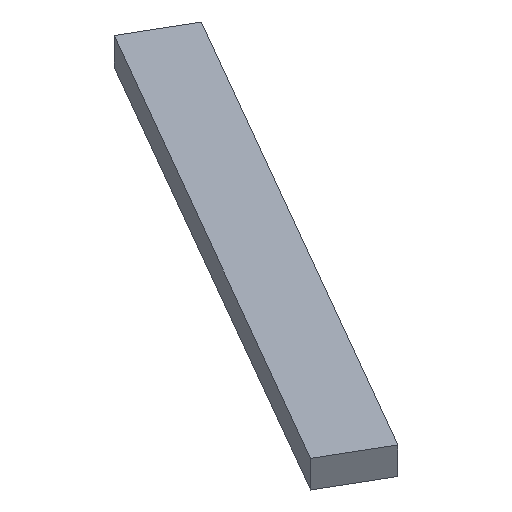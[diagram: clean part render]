
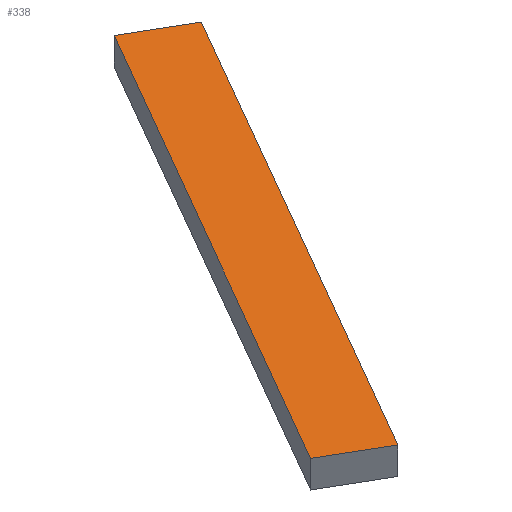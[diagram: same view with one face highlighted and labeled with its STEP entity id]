
A CAD part, isometric view. The second image highlights one B-rep face of the part: STEP entity #338.
In plain terms, the highlighted planar face has unit normal (0, 0, 1).
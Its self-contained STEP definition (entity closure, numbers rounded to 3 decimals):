
#24 = VERTEX_POINT('',#25);
#25 = CARTESIAN_POINT('',(57.431,92.474,15.));
#32 = PLANE('',#33);
#33 = AXIS2_PLACEMENT_3D('',#34,#35,#36);
#34 = CARTESIAN_POINT('',(57.431,92.474,12.));
#35 = DIRECTION('',(0.866,-0.5,0.));
#36 = DIRECTION('',(-0.5,-0.866,0.));
#44 = PLANE('',#45);
#45 = AXIS2_PLACEMENT_3D('',#46,#47,#48);
#46 = CARTESIAN_POINT('',(51.369,95.974,12.));
#47 = DIRECTION('',(0.5,0.866,-0.));
#48 = DIRECTION('',(0.866,-0.5,0.));
#56 = EDGE_CURVE('',#24,#57,#59,.T.);
#57 = VERTEX_POINT('',#58);
#58 = CARTESIAN_POINT('',(28.031,41.551,15.));
#59 = SURFACE_CURVE('',#60,(#64,#71),.PCURVE_S1.);
#60 = LINE('',#61,#62);
#61 = CARTESIAN_POINT('',(57.431,92.474,15.));
#62 = VECTOR('',#63,1.);
#63 = DIRECTION('',(-0.5,-0.866,0.));
#64 = PCURVE('',#32,#65);
#65 = DEFINITIONAL_REPRESENTATION('',(#66),#70);
#66 = LINE('',#67,#68);
#67 = CARTESIAN_POINT('',(0.,-3.));
#68 = VECTOR('',#69,1.);
#69 = DIRECTION('',(1.,0.));
#70 = ( GEOMETRIC_REPRESENTATION_CONTEXT(2) 
PARAMETRIC_REPRESENTATION_CONTEXT() REPRESENTATION_CONTEXT('2D SPACE',''
  ) );
#71 = PCURVE('',#72,#77);
#72 = PLANE('',#73);
#73 = AXIS2_PLACEMENT_3D('',#74,#75,#76);
#74 = CARTESIAN_POINT('',(39.7,68.762,15.));
#75 = DIRECTION('',(-0.,-0.,-1.));
#76 = DIRECTION('',(-1.,0.,0.));
#77 = DEFINITIONAL_REPRESENTATION('',(#78),#82);
#78 = LINE('',#79,#80);
#79 = CARTESIAN_POINT('',(-17.731,23.711));
#80 = VECTOR('',#81,1.);
#81 = DIRECTION('',(0.5,-0.866));
#82 = ( GEOMETRIC_REPRESENTATION_CONTEXT(2) 
PARAMETRIC_REPRESENTATION_CONTEXT() REPRESENTATION_CONTEXT('2D SPACE',''
  ) );
#100 = PLANE('',#101);
#101 = AXIS2_PLACEMENT_3D('',#102,#103,#104);
#102 = CARTESIAN_POINT('',(28.031,41.551,12.));
#103 = DIRECTION('',(-0.5,-0.866,0.));
#104 = DIRECTION('',(-0.866,0.5,0.));
#142 = EDGE_CURVE('',#57,#143,#145,.T.);
#143 = VERTEX_POINT('',#144);
#144 = CARTESIAN_POINT('',(21.969,45.051,15.));
#145 = SURFACE_CURVE('',#146,(#150,#157),.PCURVE_S1.);
#146 = LINE('',#147,#148);
#147 = CARTESIAN_POINT('',(28.031,41.551,15.));
#148 = VECTOR('',#149,1.);
#149 = DIRECTION('',(-0.866,0.5,0.));
#150 = PCURVE('',#100,#151);
#151 = DEFINITIONAL_REPRESENTATION('',(#152),#156);
#152 = LINE('',#153,#154);
#153 = CARTESIAN_POINT('',(0.,-3.));
#154 = VECTOR('',#155,1.);
#155 = DIRECTION('',(1.,0.));
#156 = ( GEOMETRIC_REPRESENTATION_CONTEXT(2) 
PARAMETRIC_REPRESENTATION_CONTEXT() REPRESENTATION_CONTEXT('2D SPACE',''
  ) );
#157 = PCURVE('',#72,#158);
#158 = DEFINITIONAL_REPRESENTATION('',(#159),#163);
#159 = LINE('',#160,#161);
#160 = CARTESIAN_POINT('',(11.669,-27.211));
#161 = VECTOR('',#162,1.);
#162 = DIRECTION('',(0.866,0.5));
#163 = ( GEOMETRIC_REPRESENTATION_CONTEXT(2) 
PARAMETRIC_REPRESENTATION_CONTEXT() REPRESENTATION_CONTEXT('2D SPACE',''
  ) );
#181 = PLANE('',#182);
#182 = AXIS2_PLACEMENT_3D('',#183,#184,#185);
#183 = CARTESIAN_POINT('',(21.969,45.051,12.));
#184 = DIRECTION('',(-0.866,0.5,0.));
#185 = DIRECTION('',(0.5,0.866,0.));
#218 = EDGE_CURVE('',#143,#219,#221,.T.);
#219 = VERTEX_POINT('',#220);
#220 = CARTESIAN_POINT('',(51.369,95.974,15.));
#221 = SURFACE_CURVE('',#222,(#226,#233),.PCURVE_S1.);
#222 = LINE('',#223,#224);
#223 = CARTESIAN_POINT('',(21.969,45.051,15.));
#224 = VECTOR('',#225,1.);
#225 = DIRECTION('',(0.5,0.866,0.));
#226 = PCURVE('',#181,#227);
#227 = DEFINITIONAL_REPRESENTATION('',(#228),#232);
#228 = LINE('',#229,#230);
#229 = CARTESIAN_POINT('',(0.,-3.));
#230 = VECTOR('',#231,1.);
#231 = DIRECTION('',(1.,0.));
#232 = ( GEOMETRIC_REPRESENTATION_CONTEXT(2) 
PARAMETRIC_REPRESENTATION_CONTEXT() REPRESENTATION_CONTEXT('2D SPACE',''
  ) );
#233 = PCURVE('',#72,#234);
#234 = DEFINITIONAL_REPRESENTATION('',(#235),#239);
#235 = LINE('',#236,#237);
#236 = CARTESIAN_POINT('',(17.731,-23.711));
#237 = VECTOR('',#238,1.);
#238 = DIRECTION('',(-0.5,0.866));
#239 = ( GEOMETRIC_REPRESENTATION_CONTEXT(2) 
PARAMETRIC_REPRESENTATION_CONTEXT() REPRESENTATION_CONTEXT('2D SPACE',''
  ) );
#289 = EDGE_CURVE('',#219,#24,#290,.T.);
#290 = SURFACE_CURVE('',#291,(#295,#302),.PCURVE_S1.);
#291 = LINE('',#292,#293);
#292 = CARTESIAN_POINT('',(51.369,95.974,15.));
#293 = VECTOR('',#294,1.);
#294 = DIRECTION('',(0.866,-0.5,0.));
#295 = PCURVE('',#44,#296);
#296 = DEFINITIONAL_REPRESENTATION('',(#297),#301);
#297 = LINE('',#298,#299);
#298 = CARTESIAN_POINT('',(0.,-3.));
#299 = VECTOR('',#300,1.);
#300 = DIRECTION('',(1.,0.));
#301 = ( GEOMETRIC_REPRESENTATION_CONTEXT(2) 
PARAMETRIC_REPRESENTATION_CONTEXT() REPRESENTATION_CONTEXT('2D SPACE',''
  ) );
#302 = PCURVE('',#72,#303);
#303 = DEFINITIONAL_REPRESENTATION('',(#304),#308);
#304 = LINE('',#305,#306);
#305 = CARTESIAN_POINT('',(-11.669,27.211));
#306 = VECTOR('',#307,1.);
#307 = DIRECTION('',(-0.866,-0.5));
#308 = ( GEOMETRIC_REPRESENTATION_CONTEXT(2) 
PARAMETRIC_REPRESENTATION_CONTEXT() REPRESENTATION_CONTEXT('2D SPACE',''
  ) );
#338 = ADVANCED_FACE('',(#339),#72,.F.);
#339 = FACE_BOUND('',#340,.F.);
#340 = EDGE_LOOP('',(#341,#342,#343,#344));
#341 = ORIENTED_EDGE('',*,*,#56,.T.);
#342 = ORIENTED_EDGE('',*,*,#142,.T.);
#343 = ORIENTED_EDGE('',*,*,#218,.T.);
#344 = ORIENTED_EDGE('',*,*,#289,.T.);
